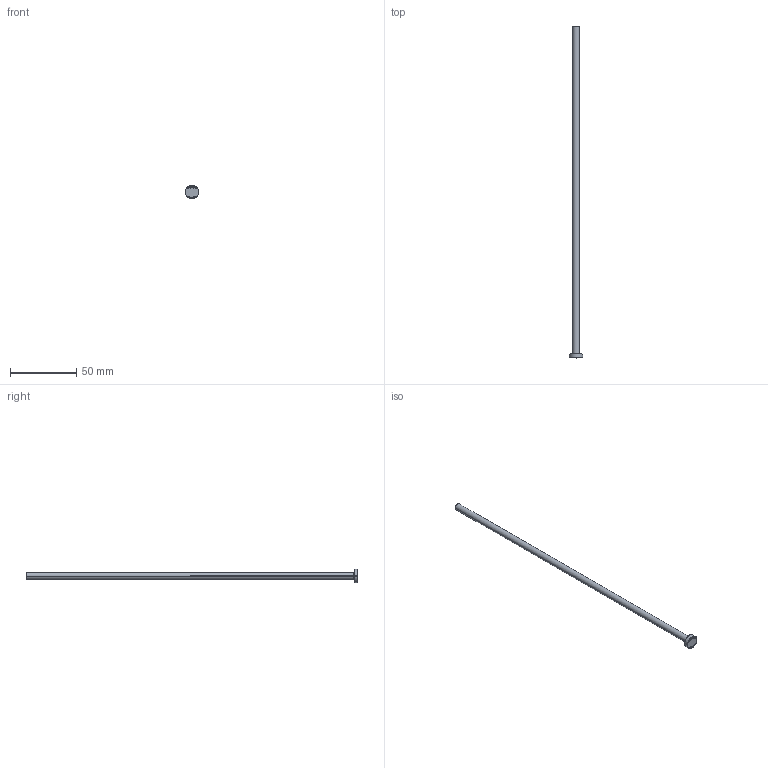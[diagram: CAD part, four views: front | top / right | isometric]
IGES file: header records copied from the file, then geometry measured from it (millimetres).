
Start section: SolidWorks IGES file using analytic representation for surfaces
Global section: file name: C:\Users\User\Downloads\Matripeça 31-08 tar\PB - PINO EXTRATOR TIPO _B_ (CATÁLOGO)\PB05,0\PB05,0250.IGS; native system: SolidWorks 2024; preprocessor: SolidWorks 2024; author: User; date: 260901.142801; units: millimetre
Bounding box: 10 x 250 x 10 mm (x, y, z)
Surface area: 4137.2 mm2 (no closed solid volume)
Topology: 0 solids, 0 shells, 406 faces, 3657 edges, 3657 vertices
Faces by surface type: bspline 392, revolution 14
